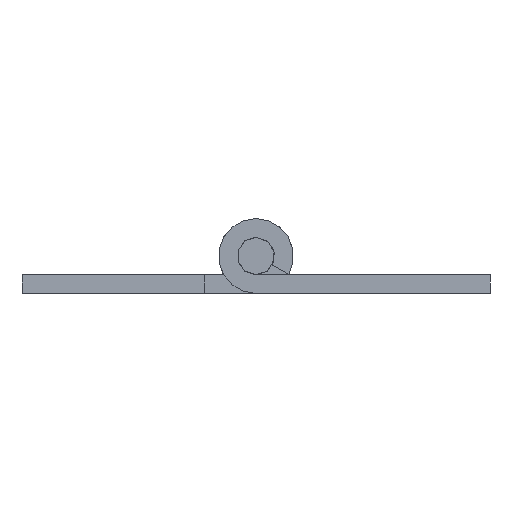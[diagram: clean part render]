
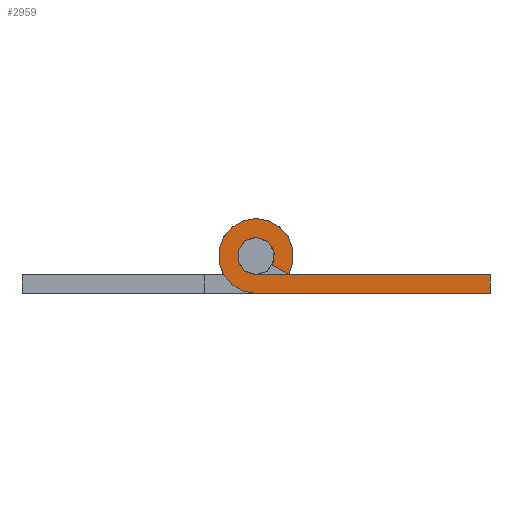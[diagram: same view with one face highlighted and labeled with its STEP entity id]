
A CAD part, front view. The second image highlights one B-rep face of the part: STEP entity #2959.
In plain terms, the highlighted planar face has unit normal (0, -1, 0).
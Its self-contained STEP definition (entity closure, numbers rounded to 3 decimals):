
#2959=ADVANCED_FACE('',(#5916),#5917,.T.);
#5916=FACE_OUTER_BOUND('',#8873,.T.);
#5917=PLANE('',#8874);
#8873=EDGE_LOOP('',(#18602,#18603,#18604,#18605,#18606,#18607,#18608,#18609));
#8874=AXIS2_PLACEMENT_3D('',#18610,#18611,#18612);
#18602=ORIENTED_EDGE('',*,*,#22538,.F.);
#18603=ORIENTED_EDGE('',*,*,#22552,.T.);
#18604=ORIENTED_EDGE('',*,*,#22219,.T.);
#18605=ORIENTED_EDGE('',*,*,#20609,.T.);
#18606=ORIENTED_EDGE('',*,*,#22548,.T.);
#18607=ORIENTED_EDGE('',*,*,#22544,.T.);
#18608=ORIENTED_EDGE('',*,*,#20604,.T.);
#18609=ORIENTED_EDGE('',*,*,#22550,.T.);
#18610=CARTESIAN_POINT('',(17.75,-900.0,0.));
#18611=DIRECTION('',(0.,-1.0,0.));
#18612=DIRECTION('',(0.0,0.,-1.0));
#20604=EDGE_CURVE('',#25479,#25476,#25480,.T.);
#20609=EDGE_CURVE('',#25488,#25485,#25489,.T.);
#22219=EDGE_CURVE('',#28054,#25488,#28055,.T.);
#22538=EDGE_CURVE('',#28383,#28385,#28386,.T.);
#22544=EDGE_CURVE('',#28392,#25479,#28393,.T.);
#22548=EDGE_CURVE('',#25485,#28392,#28397,.T.);
#22550=EDGE_CURVE('',#25476,#28385,#28399,.T.);
#22552=EDGE_CURVE('',#28383,#28054,#28401,.T.);
#25476=VERTEX_POINT('',#32301);
#25479=VERTEX_POINT('',#32305);
#25480=CIRCLE('',#32306,2.0);
#25485=VERTEX_POINT('',#32312);
#25488=VERTEX_POINT('',#32316);
#25489=CIRCLE('',#32317,1.0);
#28054=VERTEX_POINT('',#35716);
#28055=LINE('',#35717,#35718);
#28383=VERTEX_POINT('',#36176);
#28385=VERTEX_POINT('',#36179);
#28386=LINE('',#36180,#36181);
#28392=VERTEX_POINT('',#36189);
#28393=LINE('',#36190,#36191);
#28397=CIRCLE('',#36196,1.0);
#28399=CIRCLE('',#36198,2.0);
#28401=LINE('',#36200,#36201);
#32301=CARTESIAN_POINT('',(5.25,-900.0,4.0));
#32305=CARTESIAN_POINT('',(6.999,-900.0,1.03));
#32306=AXIS2_PLACEMENT_3D('',#38637,#38638,#38639);
#32312=CARTESIAN_POINT('',(5.25,-900.0,3.0));
#32316=CARTESIAN_POINT('',(5.25,-900.0,1.0));
#32317=AXIS2_PLACEMENT_3D('',#38645,#38646,#38647);
#35716=CARTESIAN_POINT('',(17.75,-900.0,1.0));
#35717=CARTESIAN_POINT('',(17.75,-900.0,1.0));
#35718=VECTOR('',#40913,12.5);
#36176=CARTESIAN_POINT('',(17.75,-900.0,0.));
#36179=CARTESIAN_POINT('',(5.25,-900.0,0.));
#36180=CARTESIAN_POINT('',(17.75,-900.0,0.));
#36181=VECTOR('',#41063,12.5);
#36189=CARTESIAN_POINT('',(6.125,-900.0,1.515));
#36190=CARTESIAN_POINT('',(6.125,-900.0,1.515));
#36191=VECTOR('',#41066,1.0);
#36196=AXIS2_PLACEMENT_3D('',#41068,#41069,#41070);
#36198=AXIS2_PLACEMENT_3D('',#41071,#41072,#41073);
#36200=CARTESIAN_POINT('',(17.75,-900.0,0.));
#36201=VECTOR('',#41074,1.0);
#38637=CARTESIAN_POINT('',(5.25,-900.0,2.0));
#38638=DIRECTION('',(0.,-1.0,0.));
#38639=DIRECTION('',(0.,0.,1.0));
#38645=CARTESIAN_POINT('',(5.25,-900.0,2.0));
#38646=DIRECTION('',(0.,1.0,0.));
#38647=DIRECTION('',(0.,0.,-1.0));
#40913=DIRECTION('',(-1.0,0.,0.));
#41063=DIRECTION('',(-1.0,0.,0.));
#41066=DIRECTION('',(0.875,0.,-0.485));
#41068=CARTESIAN_POINT('',(5.25,-900.0,2.0));
#41069=DIRECTION('',(0.,1.0,0.));
#41070=DIRECTION('',(0.,0.,-1.0));
#41071=CARTESIAN_POINT('',(5.25,-900.0,2.0));
#41072=DIRECTION('',(0.,-1.0,0.));
#41073=DIRECTION('',(0.,0.,1.0));
#41074=DIRECTION('',(0.,0.,1.0));
